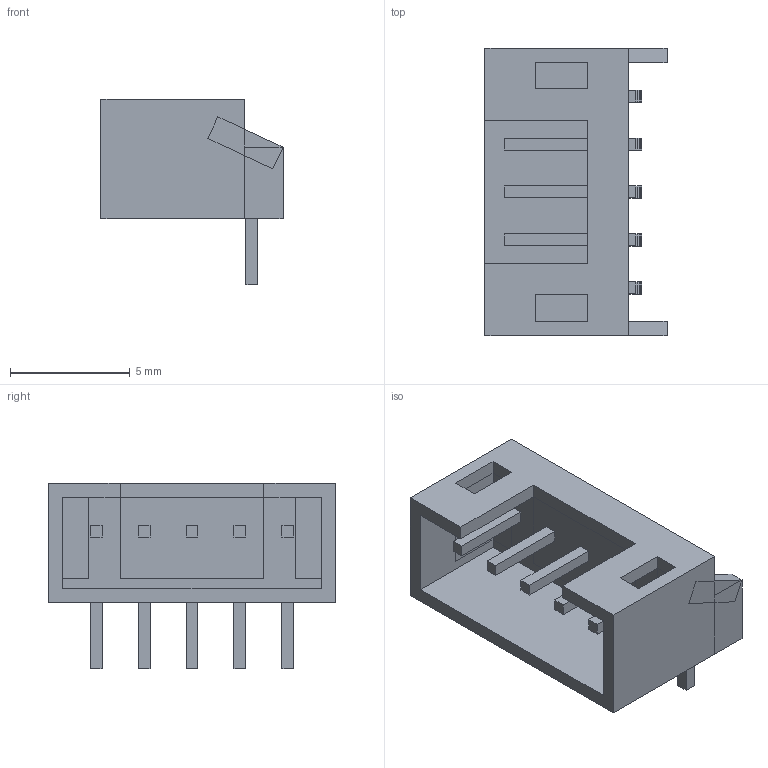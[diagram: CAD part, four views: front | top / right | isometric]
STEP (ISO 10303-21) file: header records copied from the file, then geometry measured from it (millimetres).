
FILE_DESCRIPTION(('FreeCAD Model'),'2;1');
FILE_NAME('Open CASCADE Shape Model','2021-06-28T18:58:20',('Author'),( ''),'Open CASCADE STEP processor 7.5','FreeCAD','Unknown');
FILE_SCHEMA(('AUTOMOTIVE_DESIGN { 1 0 10303 214 1 1 1 1 }'));
Length unit declared in the file: millimetre
Products named in the file (1): Group003
Bounding box: 7.6 x 12 x 7.75 mm (x, y, z)
Volume: 183.5 mm3; surface area: 521.2 mm2
Topology: 1 solids, 1 shells, 193 faces, 559 edges, 376 vertices
Faces by surface type: plane 193
Entity records: 13525 total; most frequent: CARTESIAN_POINT 2393, DIRECTION 1919, LINE 1531, VECTOR 1531, ORIENTED_EDGE 1118, PCURVE 1118, DEFINITIONAL_REPRESENTATION 1118, EDGE_CURVE 559
